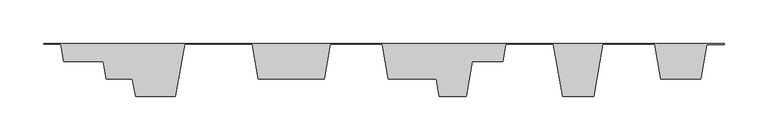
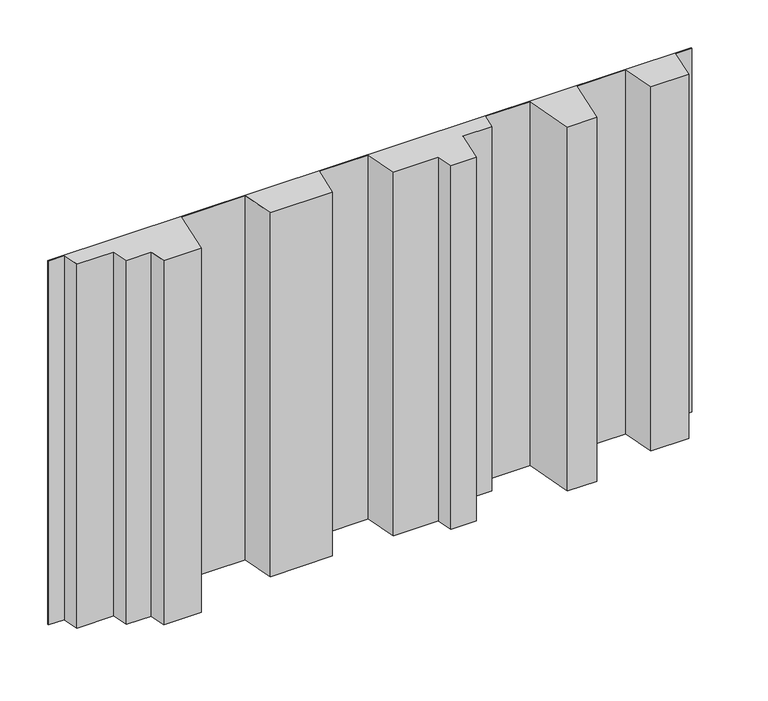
"""IFC4 building model written with IfcOpenShell, lengths in millimetres: plate geometry, ATELIERS 3S_NEW YORK MANHATTAN 780_VERTICAL : AZURO."""

import ifcopenshell
import ifcopenshell.guid

model = None  # the IFC model being written
_history = None  # IfcOwnerHistory: only IFC2X3 demands one
_inside = {}  # id of a spatial element -> (the spatial element, [elements in it])
_under = {}  # id of a project, library or spatial element -> (it, [spatial elements below it])
_declared = {}  # id of a project -> (the project, [libraries it declares])
_typed = {}  # id of a type object -> (the type object, [elements of that type])
_made_of = {}  # id of a material, layer set ... -> (it, [elements and type objects made of it])


def new_model(schema):
    """Start an empty IFC model of exactly this schema.

    Asked for "IFC4X3", IfcOpenShell would pick the latest addendum, in which some entities
    have other attributes; the version numbers below select the first issue.
    IFC2X3 requires an IfcOwnerHistory on every rooted entity: one is made here for all.
    """
    global model, _history
    if schema == "IFC4X3":
        model = ifcopenshell.file(schema_version=(4, 3, 0, 0))
    else:
        model = ifcopenshell.file(schema=schema)
    _inside.clear()
    _under.clear()
    _declared.clear()
    _typed.clear()
    _made_of.clear()
    _history = None
    if model.schema == "IFC2X3":
        org = make("IfcOrganization", Name="unknown")
        user = make(
            "IfcPersonAndOrganization",
            ThePerson=make("IfcPerson", FamilyName="unknown"),
            TheOrganization=org,
        )
        app = make(
            "IfcApplication",
            ApplicationDeveloper=org,
            Version="unknown",
            ApplicationFullName="unknown",
            ApplicationIdentifier="unknown",
        )
        _history = make(
            "IfcOwnerHistory",
            OwningUser=user,
            OwningApplication=app,
            ChangeAction="ADDED",
            CreationDate=0,
        )
    return model


def make(cls, **values):
    """One entity of the class cls with the attributes given. An attribute that is None is left unset."""
    return model.create_entity(
        cls, **{name: value for name, value in values.items() if value is not None}
    )


def rooted(cls, **values):
    """An entity with a GlobalId (a new one), such as an element, a storey or a relation."""
    return make(cls, GlobalId=ifcopenshell.guid.new(), OwnerHistory=_history, **values)


def si_unit(unit_type, name, prefix=None):
    """IfcSIUnit, for example si_unit("LENGTHUNIT", "METRE", prefix="MILLI")."""
    return make("IfcSIUnit", UnitType=unit_type, Prefix=prefix, Name=name)


def assignment(units):
    """IfcUnitAssignment: the units of a project."""
    return None if units is None else make("IfcUnitAssignment", Units=units)


def point(xyz):
    """IfcCartesianPoint."""
    return None if xyz is None else make("IfcCartesianPoint", Coordinates=xyz)


def direction(xyz):
    """IfcDirection."""
    return None if xyz is None else make("IfcDirection", DirectionRatios=xyz)


def frame(location, z_axis=None, x_axis=None):
    """IfcAxis2Placement3D, a coordinate frame: its origin and axes. An axis left out is left unset."""
    return make(
        "IfcAxis2Placement3D",
        Location=point(location),
        Axis=direction(z_axis),
        RefDirection=direction(x_axis),
    )


def origin():
    """The frame at (0, 0, 0) with its axes left unset."""
    return frame((0.0, 0.0, 0.0))


def origin_with_axes():
    """The frame at (0, 0, 0) with the z axis (0, 0, 1) and the x axis (1, 0, 0) written out."""
    return frame((0.0, 0.0, 0.0), z_axis=(0.0, 0.0, 1.0), x_axis=(1.0, 0.0, 0.0))


def place(relative_to, where):
    """IfcLocalPlacement: puts the frame where relative to a parent placement (None: the world)."""
    return make(
        "IfcLocalPlacement", PlacementRelTo=relative_to, RelativePlacement=where
    )


def context(
    kind, dimensions, precision=None, world=None, true_north=None, identifier=None
):
    """IfcGeometricRepresentationContext, for example the 3D "Model" context."""
    return make(
        "IfcGeometricRepresentationContext",
        ContextIdentifier=identifier,
        ContextType=kind,
        CoordinateSpaceDimension=dimensions,
        Precision=precision,
        WorldCoordinateSystem=world,
        TrueNorth=true_north,
    )


def project(units=None, contexts=None):
    """IfcProject with its units and contexts."""
    return rooted(
        "IfcProject",
        Name="project",
        RepresentationContexts=contexts,
        UnitsInContext=assignment(units),
    )


def spatial(cls, under=None, at=None, **own):
    """A site, building, storey or space (cls), placed at a placement, below another one or the project."""
    s = rooted(cls, ObjectPlacement=at, **own)
    if under is not None:
        _under.setdefault(under.id(), (under, []))[1].append(s)
    return s


def polyline(points):
    """IfcPolyline through the points."""
    return make("IfcPolyline", Points=[point(p) for p in points])


def outline(outer, holes=None, kind="AREA"):
    """IfcArbitraryClosedProfileDef: a profile drawn as a closed curve; with holes, ...WithVoids."""
    if holes is None:
        return make("IfcArbitraryClosedProfileDef", ProfileType=kind, OuterCurve=outer)
    return make(
        "IfcArbitraryProfileDefWithVoids",
        ProfileType=kind,
        OuterCurve=outer,
        InnerCurves=holes,
    )


def extrude(swept, where, along, depth):
    """IfcExtrudedAreaSolid: the profile swept, set in the frame where, extruded along a direction by depth."""
    return make(
        "IfcExtrudedAreaSolid",
        SweptArea=swept,
        Position=where,
        ExtrudedDirection=direction(along),
        Depth=depth,
    )


def shape(context_of_items, identifier, shape_type, items):
    """IfcShapeRepresentation: the items that make up one representation, for example the "Body"."""
    return make(
        "IfcShapeRepresentation",
        ContextOfItems=context_of_items,
        RepresentationIdentifier=identifier,
        RepresentationType=shape_type,
        Items=items,
    )


def source(mapping_origin, context_of_items, identifier, shape_type, items):
    """IfcRepresentationMap: a shape defined once, which mapped items show again and again."""
    return make(
        "IfcRepresentationMap",
        MappingOrigin=mapping_origin,
        MappedRepresentation=shape(context_of_items, identifier, shape_type, items),
    )


def transform(
    local_origin,
    x_axis=None,
    y_axis=None,
    z_axis=None,
    scale=None,
    scale2=None,
    scale3=None,
    uniform=True,
):
    """IfcCartesianTransformationOperator3D, or its non-uniform kind. x_axis, y_axis, z_axis: its Axis1, 2, 3."""
    if uniform:
        return make(
            "IfcCartesianTransformationOperator3D",
            Axis1=direction(x_axis),
            Axis2=direction(y_axis),
            LocalOrigin=point(local_origin),
            Scale=scale,
            Axis3=direction(z_axis),
        )
    return make(
        "IfcCartesianTransformationOperator3DnonUniform",
        Axis1=direction(x_axis),
        Axis2=direction(y_axis),
        LocalOrigin=point(local_origin),
        Scale=scale,
        Axis3=direction(z_axis),
        Scale2=scale2,
        Scale3=scale3,
    )


def mapped(mapping_source, mapping_target):
    """IfcMappedItem: shows the shape of a source again, moved by a transform."""
    return make(
        "IfcMappedItem", MappingSource=mapping_source, MappingTarget=mapping_target
    )


def made_of(thing, what):
    """Note that an element or type object is made of a material, layer set ...; save() writes the relation."""
    if what is not None:
        _made_of.setdefault(what.id(), (what, []))[1].append(thing)
    return thing


def element(
    cls,
    number,
    at=None,
    inside=None,
    cuts=None,
    type_object=None,
    material=None,
    context=None,
    identifier="Body",
    shape_type=None,
    held_by="IfcProductDefinitionShape",
    body=None,
    shapes=None,
    **own,
):
    """One element of the class cls, such as IfcWall. Its Tag is "e" and its number.

    at: its placement. inside: the storey or other place that contains it. cuts: it is an
    opening in that element (IfcRelVoidsElement). A single representation is given by context,
    identifier, shape_type and body (its items); several are given by shapes. held_by: the class
    of the entity that holds the representations. save() writes the other relations.
    """
    e = rooted(cls, Tag="e%d" % number, ObjectPlacement=at, **own)
    if body is not None:
        shapes = [shape(context, identifier, shape_type, body)]
    if shapes is not None:
        e.Representation = make(held_by, Representations=shapes)
    if inside is not None:
        _inside.setdefault(inside.id(), (inside, []))[1].append(e)
    if cuts is not None:
        rooted(
            "IfcRelVoidsElement", RelatingBuildingElement=cuts, RelatedOpeningElement=e
        )
    if type_object is not None:
        _typed.setdefault(type_object.id(), (type_object, []))[1].append(e)
    return made_of(e, material)


def aggregate(whole, parts):
    """IfcRelAggregates: a whole, such as a stair, and the parts it consists of."""
    return rooted("IfcRelAggregates", RelatingObject=whole, RelatedObjects=parts)


def save(model, path):
    """Write the relations noted so far, then the file.

    IfcRelAggregates (storeys below a building ...), IfcRelContainedInSpatialStructure (elements
    in a storey), IfcRelDefinesByType, IfcRelAssociatesMaterial and IfcRelDeclares: one each for
    every whole, place, type object, material and project.
    """
    for whole, parts in _under.values():
        aggregate(whole, parts)
    for where, things in _inside.values():
        rooted(
            "IfcRelContainedInSpatialStructure",
            RelatedElements=things,
            RelatingStructure=where,
        )
    for kind, things in _typed.values():
        rooted("IfcRelDefinesByType", RelatedObjects=things, RelatingType=kind)
    for what, things in _made_of.values():
        rooted("IfcRelAssociatesMaterial", RelatedObjects=things, RelatingMaterial=what)
    for by, libraries in _declared.values():
        rooted("IfcRelDeclares", RelatingContext=by, RelatedDefinitions=libraries)
    model.write(path)


def plate_84896465(model_context):
    return source(origin(), model_context, "Body", "SweptSolid", [
        extrude(outline(polyline([(-370.3146624, -0.864757), (-390.0, -0.864757), (-390.0, 0.0), (390.0, 0.0), (390.0, -1.0), (369.9808453, -1.0), (362.9516131, -40.864757), (317.3222884, -40.864757), (310.2692092, -0.864757), (250.8985339, -0.864757), (240.318915, -60.864757), (204.6895903, -60.864757), (194.1099715, -0.864757), (139.7392962, -0.864757), (136.2127566, -20.864757), (101.2127566, -20.864757), (94.1596773, -60.864757), (63.5303526, -60.864757), (60.003813, -40.864757), (5.003813, -40.864757), (-2.0492662, -0.864757), (-61.4199415, -0.864757), (-68.4730207, -40.864757), (-144.1023454, -40.864757), (-151.1554247, -0.864757), (-228.5261, -0.864757), (-239.1057188, -60.864757), (-284.7350435, -60.864757), (-288.2615831, -40.864757), (-318.2615831, -40.864757), (-321.7881227, -20.864757), (-366.7881227, -20.864757), (-370.3146624, -0.864757)])), origin_with_axes(), (0.0, 0.0, 1.0), 466.5380782),
    ])


if __name__ == "__main__":
    model = new_model("IFC4")
    model_context = context("Model", 3, world=origin())
    ifc_project = project(units=[si_unit("LENGTHUNIT", "METRE", prefix="MILLI")], contexts=[model_context])
    site = spatial("IfcSite", under=ifc_project)
    building = spatial("IfcBuilding", under=site)
    placement = place(None, origin())
    plate_shape = plate_84896465(model_context)
    element("IfcPlate", 1, ObjectType="ATELIERS 3S_NEW YORK MANHATTAN 780_VERTICAL : AZURO", at=placement, inside=building, context=model_context, shape_type="MappedRepresentation", body=[
        mapped(plate_shape, transform((0.0, 0.0, 0.0), x_axis=(1.0, 0.0, 0.0), y_axis=(0.0, 1.0, 0.0), z_axis=(0.0, 0.0, 1.0))),
    ])
    save(model, "model.ifc")
